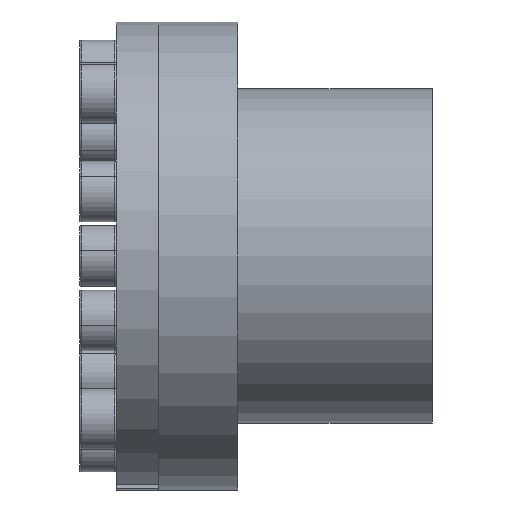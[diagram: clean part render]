
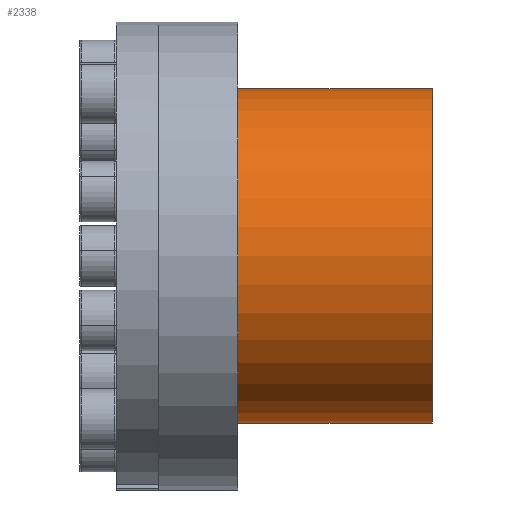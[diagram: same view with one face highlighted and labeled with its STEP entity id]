
A CAD part, front view. The second image highlights one B-rep face of the part: STEP entity #2338.
In plain terms, the highlighted cylindrical face has radius 27.5 mm (diameter 55 mm), a partial arc.
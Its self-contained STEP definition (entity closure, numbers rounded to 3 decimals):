
#18 = AXIS2_PLACEMENT_3D ( 'NONE', #1331, #2541, #7279 ) ;
#299 = CARTESIAN_POINT ( 'NONE',  ( -26., 0., -27.5 ) ) ;
#778 = CARTESIAN_POINT ( 'NONE',  ( 26., 0., -27.5 ) ) ;
#846 = VERTEX_POINT ( 'NONE', #6845 ) ;
#894 = EDGE_CURVE ( 'NONE', #846, #5200, #1595, .T. ) ;
#985 = CIRCLE ( 'NONE', #4370, 27.5 ) ;
#1194 = EDGE_CURVE ( 'NONE', #2728, #5200, #4071, .T. ) ;
#1331 = CARTESIAN_POINT ( 'NONE',  ( -26., 0., 0. ) ) ;
#1595 = CIRCLE ( 'NONE', #6467, 27.5 ) ;
#1784 = DIRECTION ( 'NONE',  ( -1., 0., 0. ) ) ;
#1837 = DIRECTION ( 'NONE',  ( -1., 0., 0. ) ) ;
#1856 = VECTOR ( 'NONE', #6277, 1000. ) ;
#2338 = ADVANCED_FACE ( 'NONE', ( #5292 ), #6703, .T. ) ;
#2541 = DIRECTION ( 'NONE',  ( -1., 0., 0. ) ) ;
#2709 = ORIENTED_EDGE ( 'NONE', *, *, #7158, .F. ) ;
#2728 = VERTEX_POINT ( 'NONE', #4989 ) ;
#3237 = ORIENTED_EDGE ( 'NONE', *, *, #894, .F. ) ;
#3366 = CARTESIAN_POINT ( 'NONE',  ( -6., 0., 27.5 ) ) ;
#3369 = VERTEX_POINT ( 'NONE', #778 ) ;
#4071 = LINE ( 'NONE', #6549, #7079 ) ;
#4370 = AXIS2_PLACEMENT_3D ( 'NONE', #5392, #1837, #6003 ) ;
#4549 = EDGE_LOOP ( 'NONE', ( #2709, #7150, #5669, #3237 ) ) ;
#4666 = EDGE_CURVE ( 'NONE', #3369, #2728, #985, .T. ) ;
#4989 = CARTESIAN_POINT ( 'NONE',  ( 26., 0., 27.5 ) ) ;
#4998 = LINE ( 'NONE', #299, #1856 ) ;
#5200 = VERTEX_POINT ( 'NONE', #3366 ) ;
#5292 = FACE_OUTER_BOUND ( 'NONE', #4549, .T. ) ;
#5392 = CARTESIAN_POINT ( 'NONE',  ( 26., 0., 0. ) ) ;
#5605 = DIRECTION ( 'NONE',  ( 0., 0., 1. ) ) ;
#5669 = ORIENTED_EDGE ( 'NONE', *, *, #1194, .T. ) ;
#6003 = DIRECTION ( 'NONE',  ( 0., 0., 1. ) ) ;
#6174 = DIRECTION ( 'NONE',  ( -1., 0., 0. ) ) ;
#6277 = DIRECTION ( 'NONE',  ( -1., 0., 0. ) ) ;
#6467 = AXIS2_PLACEMENT_3D ( 'NONE', #6764, #6174, #5605 ) ;
#6549 = CARTESIAN_POINT ( 'NONE',  ( -26., 0., 27.5 ) ) ;
#6703 = CYLINDRICAL_SURFACE ( 'NONE', #18, 27.5 ) ;
#6764 = CARTESIAN_POINT ( 'NONE',  ( -6., 0., 0. ) ) ;
#6845 = CARTESIAN_POINT ( 'NONE',  ( -6., 0., -27.5 ) ) ;
#7079 = VECTOR ( 'NONE', #1784, 1000. ) ;
#7150 = ORIENTED_EDGE ( 'NONE', *, *, #4666, .T. ) ;
#7158 = EDGE_CURVE ( 'NONE', #3369, #846, #4998, .T. ) ;
#7279 = DIRECTION ( 'NONE',  ( 0., 0., 1. ) ) ;
